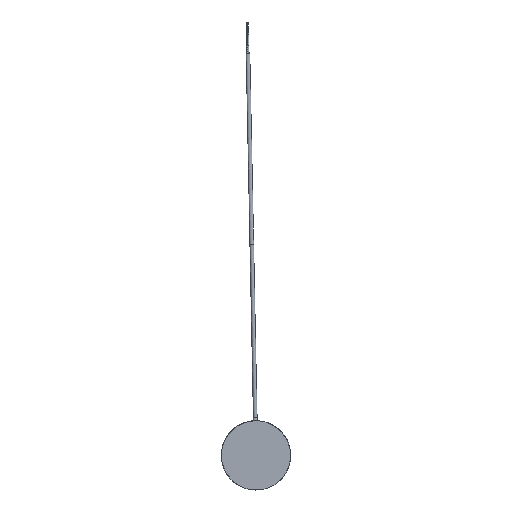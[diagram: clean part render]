
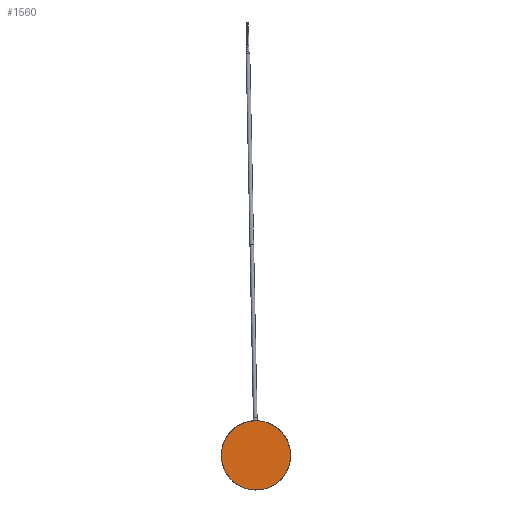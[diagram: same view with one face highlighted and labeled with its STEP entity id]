
A CAD part, front view. The second image highlights one B-rep face of the part: STEP entity #1560.
In plain terms, the highlighted planar face has unit normal (0, -1, 0).
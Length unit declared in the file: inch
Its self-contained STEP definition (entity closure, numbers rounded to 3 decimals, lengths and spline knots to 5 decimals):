
#133=CIRCLE('',#1826,0.5);
#295=FACE_OUTER_BOUND('',#400,.T.);
#400=EDGE_LOOP('',(#1069));
#667=VERTEX_POINT('',#2392);
#824=EDGE_CURVE('',#667,#667,#133,.T.);
#1069=ORIENTED_EDGE('',*,*,#824,.T.);
#1522=PLANE('',#1827);
#1560=ADVANCED_FACE('',(#295),#1522,.F.);
#1826=AXIS2_PLACEMENT_3D('',#2394,#1994,#1995);
#1827=AXIS2_PLACEMENT_3D('',#2395,#1996,#1997);
#1994=DIRECTION('center_axis',(0.,-1.,0.));
#1995=DIRECTION('ref_axis',(1.,0.,0.));
#1996=DIRECTION('center_axis',(0.,1.,0.));
#1997=DIRECTION('ref_axis',(0.,0.,1.));
#2392=CARTESIAN_POINT('',(-0.5,0.,0.));
#2394=CARTESIAN_POINT('Origin',(0.,0.,0.));
#2395=CARTESIAN_POINT('Origin',(0.,0.,0.));
